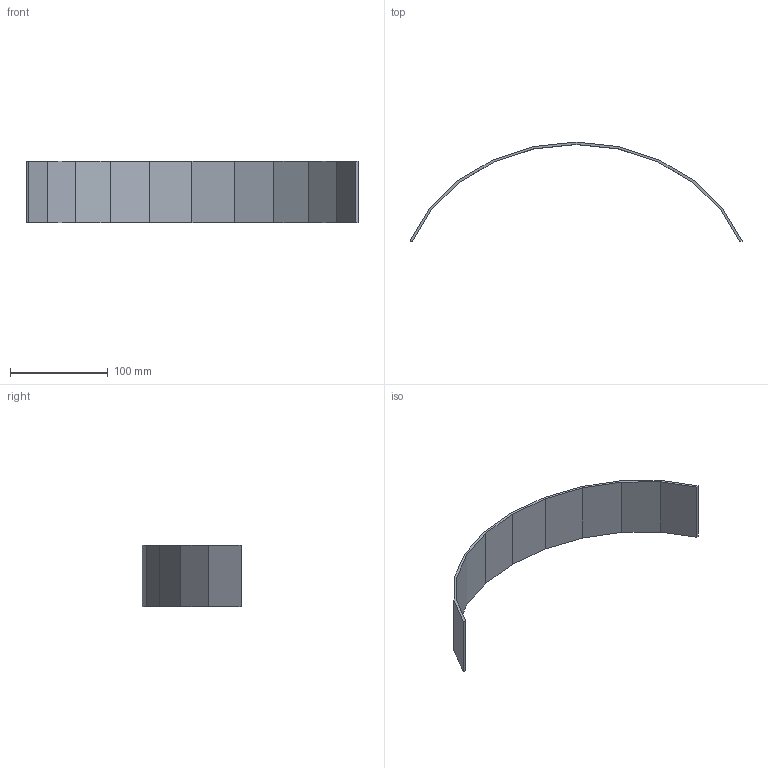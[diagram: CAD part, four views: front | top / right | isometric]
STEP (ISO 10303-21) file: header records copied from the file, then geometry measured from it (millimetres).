
FILE_DESCRIPTION(('Open CASCADE Model'),'2;1');
FILE_NAME('Open CASCADE Shape Model','2026-09-19T23:46:39',('Author'),( 'Open CASCADE'),'Open CASCADE STEP processor 7.9','Open CASCADE 7.9' ,'Unknown');
FILE_SCHEMA(('AUTOMOTIVE_DESIGN { 1 0 10303 214 1 1 1 1 }'));
Length unit declared in the file: millimetre
Products named in the file (1): Open CASCADE STEP translator 7.9 22
Bounding box: 340.17 x 102.18 x 63 mm (x, y, z)
Volume: 64712.5 mm3; surface area: 54629.5 mm2
Topology: 1 solids, 1 shells, 24 faces, 66 edges, 44 vertices
Faces by surface type: plane 24
Entity records: 1552 total; most frequent: CARTESIAN_POINT 333, DIRECTION 182, ORIENTED_EDGE 132, LINE 132, VECTOR 132, PCURVE 132, DEFINITIONAL_REPRESENTATION 132, EDGE_CURVE 66
